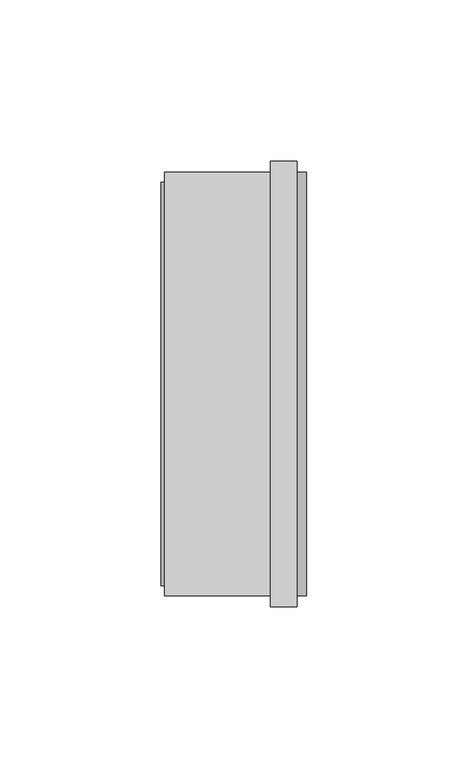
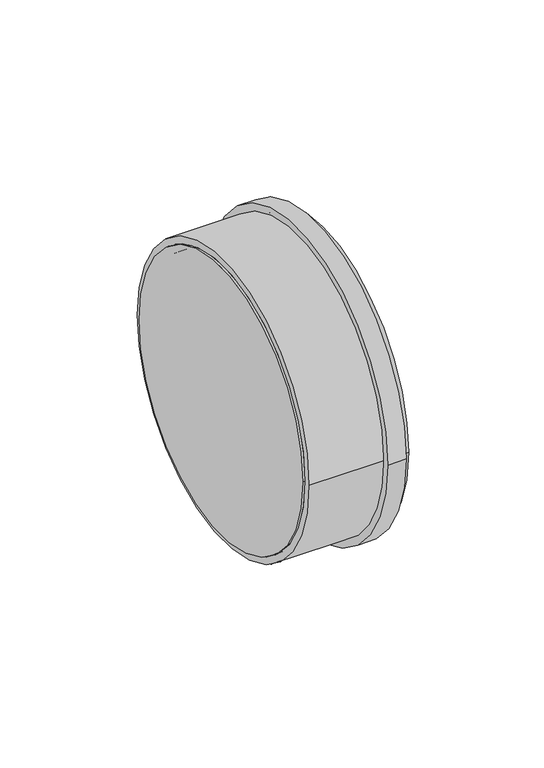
"""IFC4 building model written with IfcOpenShell, lengths in millimetres: pipe fitting geometry, Superdrain HTM-Plug : Superdrain HTM-Plug."""

from ifc_helpers import new_model, si_unit, point, frame, origin, origin_2d, place, context, project, spatial, polyline, circle_curve, trimmed, segment, composite_curve, outline, extrude, source, transform, mapped, element, save
from ifc_brep_helpers import plane_surface, cylinder_surface, revolved_surface, advanced_brep


def pipe_fitting_14c2af34(model_context):
    return source(origin(), model_context, "Body", "SolidModel", [
        extrude(outline(composite_curve([segment(trimmed(circle_curve(origin_2d(), 65.625), [point((65.625, 0.0))], [point((-65.625, 0.0))], False, "CARTESIAN"), True, "CONTINUOUS"), segment(trimmed(circle_curve(origin_2d(), 65.625), [point((-65.625, 0.0))], [point((65.625, 0.0))], False, "CARTESIAN"), True, "CONTINUOUS")], self_intersect=False), holes=[composite_curve([segment(trimmed(circle_curve(origin_2d(), 62.5), [point((62.5, 0.0))], [point((-62.5, 0.0))], True, "CARTESIAN"), True, "CONTINUOUS"), segment(trimmed(circle_curve(origin_2d(), 62.5), [point((-62.5, 0.0))], [point((62.5, 0.0))], True, "CARTESIAN"), True, "CONTINUOUS")], self_intersect=False)]), frame((0.0, 0.0, 0.0), z_axis=(1.0, 0.0, 0.0), x_axis=(0.0, 1.0, 0.0)), (0.0, 0.0, 1.0), 41.0),
        extrude(outline(composite_curve([segment(trimmed(circle_curve(origin_2d(), 68.90625), [point((68.90625, 0.0))], [point((-68.90625, 0.0))], False, "CARTESIAN"), True, "CONTINUOUS"), segment(trimmed(circle_curve(origin_2d(), 68.90625), [point((-68.90625, 0.0))], [point((68.90625, 0.0))], False, "CARTESIAN"), True, "CONTINUOUS")], self_intersect=False), holes=[composite_curve([segment(trimmed(circle_curve(origin_2d(), 62.5), [point((62.5, 0.0))], [point((-62.5, 0.0))], True, "CARTESIAN"), True, "CONTINUOUS"), segment(trimmed(circle_curve(origin_2d(), 62.5), [point((-62.5, 0.0))], [point((62.5, 0.0))], True, "CARTESIAN"), True, "CONTINUOUS")], self_intersect=False)]), frame((32.8, 0.0, 0.0), z_axis=(1.0, 0.0, 0.0), x_axis=(0.0, 1.0, 0.0)), (0.0, 0.0, 1.0), 8.2),
        extrude(outline(composite_curve([segment(trimmed(circle_curve(origin_2d(), 62.5), [point((62.5, 0.0))], [point((-62.5, 0.0))], False, "CARTESIAN"), True, "CONTINUOUS"), segment(trimmed(circle_curve(origin_2d(), 62.5), [point((-62.5, 0.0))], [point((62.5, 0.0))], False, "CARTESIAN"), True, "CONTINUOUS")], self_intersect=False)), frame((-1.0, 0.0, 0.0), z_axis=(1.0, 0.0, 0.0), x_axis=(0.0, 1.0, 0.0)), (0.0, 0.0, 1.0), 1.0),
        advanced_brep(
        [(0.0, -62.5, 0.0), (0.0, 62.5, 0.0), (0.0, 59.375, 0.0), (0.0, -59.375, 0.0), (44.0, -62.5, 0.0), (44.0, 62.5, 0.0), (41.0, -59.375, 0.0), (41.0, 59.375, 0.0)],
        [
            (0, 1, circle_curve(frame((0.0, 0.0, 0.0), z_axis=(-1.0, 0.0, 0.0), x_axis=(0.0, 1.0, 0.0)), 62.5)),
            (1, 0, circle_curve(frame((0.0, 0.0, 0.0), z_axis=(-1.0, 0.0, 0.0), x_axis=(0.0, 1.0, 0.0)), 62.5)),
            (2, 3, circle_curve(frame((0.0, 0.0, 0.0), z_axis=(1.0, 0.0, 0.0), x_axis=(0.0, 1.0, 0.0)), 59.375)),
            (3, 2, circle_curve(frame((0.0, 0.0, 0.0), z_axis=(1.0, 0.0, 0.0), x_axis=(0.0, 1.0, 0.0)), 59.375)),
            (4, 5, circle_curve(frame((44.0, 0.0, 0.0), z_axis=(1.0, 0.0, 0.0), x_axis=(0.0, 1.0, 0.0)), 62.5)),
            (5, 4, circle_curve(frame((44.0, 0.0, 0.0), z_axis=(1.0, 0.0, 0.0), x_axis=(0.0, 1.0, 0.0)), 62.5)),
            (0, 4),
            (5, 1),
            (6, 7, circle_curve(frame((41.0, 0.0, 0.0), z_axis=(-1.0, 0.0, 0.0), x_axis=(0.0, 1.0, 0.0)), 59.375)),
            (7, 6, circle_curve(frame((41.0, 0.0, 0.0), z_axis=(-1.0, 0.0, 0.0), x_axis=(0.0, 1.0, 0.0)), 59.375)),
            (6, 3),
            (2, 7),
        ],
        [
            plane_surface(frame((0.0, 0.0, 0.0), z_axis=(-1.0, 0.0, 0.0), x_axis=(0.0, 0.0, 1.0))),
            plane_surface(frame((44.0, 0.0, 0.0), z_axis=(1.0, 0.0, 0.0), x_axis=(0.0, 0.0, 1.0))),
            cylinder_surface(frame((0.0, 0.0, 0.0), z_axis=(-1.0, 0.0, 0.0), x_axis=(0.0, 1.0, 0.0)), 62.5),
            plane_surface(frame((41.0, 0.0, 0.0), z_axis=(-1.0, 0.0, 0.0), x_axis=(0.0, 0.0, 1.0))),
            revolved_surface(polyline([(0.0, 59.375, 0.0), (41.0, 59.375, 0.0)]), (-3.0, 0.0, 0.0), (-1.0, 0.0, 0.0)),
        ],
        [
            (0, [[1, 2], [3, 4]]),
            (1, [[5, 6]]),
            (2, [[-1, 7, -6, 8]]),
            (2, [[-2, -8, -5, -7]]),
            (3, [[9, 10]]),
            (4, [[-9, 11, -3, 12]]),
            (4, [[-10, -12, -4, -11]]),
        ],
    ),
        extrude(outline(composite_curve([segment(trimmed(circle_curve(origin_2d(), 65.625), [point((-65.625, 0.0))], [point((65.625, 0.0))], False, "CARTESIAN"), True, "CONTINUOUS"), segment(trimmed(circle_curve(origin_2d(), 65.625), [point((65.625, 0.0))], [point((-65.625, 0.0))], False, "CARTESIAN"), True, "CONTINUOUS")], self_intersect=False)), frame((41.0, 0.0, 0.0), z_axis=(1.0, 0.0, 0.0), x_axis=(0.0, 1.0, 0.0)), (0.0, 0.0, 1.0), 3.0),
    ])


if __name__ == "__main__":
    model = new_model("IFC4")
    model_context = context("Model", 3, world=origin())
    ifc_project = project(units=[si_unit("LENGTHUNIT", "METRE", prefix="MILLI")], contexts=[model_context])
    site = spatial("IfcSite", under=ifc_project)
    building = spatial("IfcBuilding", under=site)
    placement = place(None, origin())
    pipe_fitting_shape = pipe_fitting_14c2af34(model_context)
    element("IfcPipeFitting", 1, ObjectType="Superdrain HTM-Plug : Superdrain HTM-Plug", at=placement, inside=building, context=model_context, shape_type="MappedRepresentation", body=[
        mapped(pipe_fitting_shape, transform((0.0, 0.0, 0.0), x_axis=(1.0, 0.0, 0.0), y_axis=(0.0, 1.0, 0.0), z_axis=(0.0, 0.0, 1.0))),
    ])
    save(model, "model.ifc")
